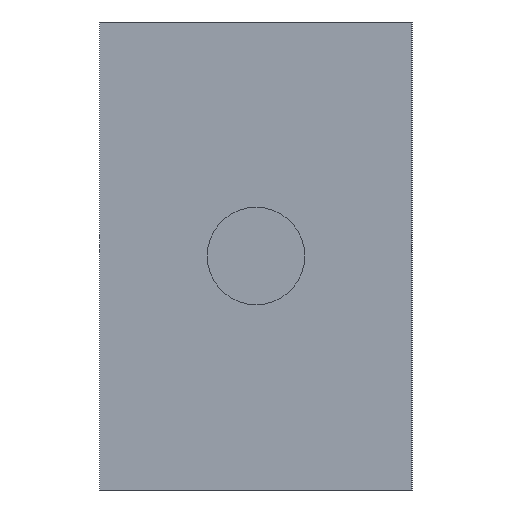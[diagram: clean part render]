
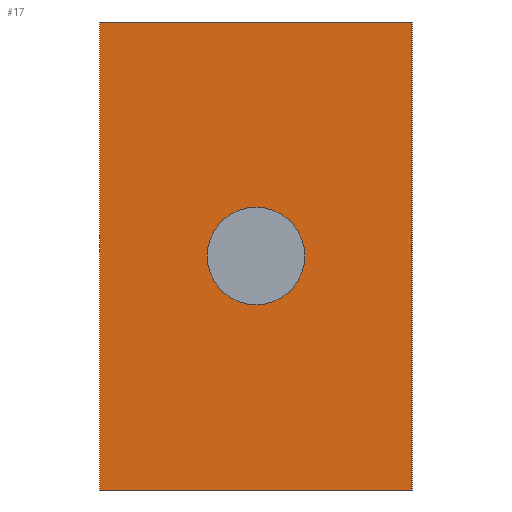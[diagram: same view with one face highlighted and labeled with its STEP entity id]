
A CAD part, left-side view. The second image highlights one B-rep face of the part: STEP entity #17.
In plain terms, the highlighted planar face has unit normal (-1, 0, 0).
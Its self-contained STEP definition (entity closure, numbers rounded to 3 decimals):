
#17 = ADVANCED_FACE('',(#18,#137),#32,.F.);
#18 = FACE_BOUND('',#19,.F.);
#19 = EDGE_LOOP('',(#20,#55,#83,#111));
#20 = ORIENTED_EDGE('',*,*,#21,.F.);
#21 = EDGE_CURVE('',#22,#24,#26,.T.);
#22 = VERTEX_POINT('',#23);
#23 = CARTESIAN_POINT('',(-80.,-4.,34.));
#24 = VERTEX_POINT('',#25);
#25 = CARTESIAN_POINT('',(-80.,-4.,46.));
#26 = SURFACE_CURVE('',#27,(#31,#43),.PCURVE_S1.);
#27 = LINE('',#28,#29);
#28 = CARTESIAN_POINT('',(-80.,-4.,34.));
#29 = VECTOR('',#30,1.);
#30 = DIRECTION('',(0.,0.,1.));
#31 = PCURVE('',#32,#37);
#32 = PLANE('',#33);
#33 = AXIS2_PLACEMENT_3D('',#34,#35,#36);
#34 = CARTESIAN_POINT('',(-80.,-4.,34.));
#35 = DIRECTION('',(1.,0.,0.));
#36 = DIRECTION('',(0.,0.,1.));
#37 = DEFINITIONAL_REPRESENTATION('',(#38),#42);
#38 = LINE('',#39,#40);
#39 = CARTESIAN_POINT('',(0.,0.));
#40 = VECTOR('',#41,1.);
#41 = DIRECTION('',(1.,0.));
#42 = ( GEOMETRIC_REPRESENTATION_CONTEXT(2) 
PARAMETRIC_REPRESENTATION_CONTEXT() REPRESENTATION_CONTEXT('2D SPACE',''
  ) );
#43 = PCURVE('',#44,#49);
#44 = PLANE('',#45);
#45 = AXIS2_PLACEMENT_3D('',#46,#47,#48);
#46 = CARTESIAN_POINT('',(-80.,-4.,34.));
#47 = DIRECTION('',(0.,1.,0.));
#48 = DIRECTION('',(0.,0.,1.));
#49 = DEFINITIONAL_REPRESENTATION('',(#50),#54);
#50 = LINE('',#51,#52);
#51 = CARTESIAN_POINT('',(0.,0.));
#52 = VECTOR('',#53,1.);
#53 = DIRECTION('',(1.,0.));
#54 = ( GEOMETRIC_REPRESENTATION_CONTEXT(2) 
PARAMETRIC_REPRESENTATION_CONTEXT() REPRESENTATION_CONTEXT('2D SPACE',''
  ) );
#55 = ORIENTED_EDGE('',*,*,#56,.T.);
#56 = EDGE_CURVE('',#22,#57,#59,.T.);
#57 = VERTEX_POINT('',#58);
#58 = CARTESIAN_POINT('',(-80.,4.,34.));
#59 = SURFACE_CURVE('',#60,(#64,#71),.PCURVE_S1.);
#60 = LINE('',#61,#62);
#61 = CARTESIAN_POINT('',(-80.,-4.,34.));
#62 = VECTOR('',#63,1.);
#63 = DIRECTION('',(0.,1.,0.));
#64 = PCURVE('',#32,#65);
#65 = DEFINITIONAL_REPRESENTATION('',(#66),#70);
#66 = LINE('',#67,#68);
#67 = CARTESIAN_POINT('',(0.,0.));
#68 = VECTOR('',#69,1.);
#69 = DIRECTION('',(0.,-1.));
#70 = ( GEOMETRIC_REPRESENTATION_CONTEXT(2) 
PARAMETRIC_REPRESENTATION_CONTEXT() REPRESENTATION_CONTEXT('2D SPACE',''
  ) );
#71 = PCURVE('',#72,#77);
#72 = PLANE('',#73);
#73 = AXIS2_PLACEMENT_3D('',#74,#75,#76);
#74 = CARTESIAN_POINT('',(-80.,-4.,34.));
#75 = DIRECTION('',(0.,0.,1.));
#76 = DIRECTION('',(1.,0.,0.));
#77 = DEFINITIONAL_REPRESENTATION('',(#78),#82);
#78 = LINE('',#79,#80);
#79 = CARTESIAN_POINT('',(0.,0.));
#80 = VECTOR('',#81,1.);
#81 = DIRECTION('',(0.,1.));
#82 = ( GEOMETRIC_REPRESENTATION_CONTEXT(2) 
PARAMETRIC_REPRESENTATION_CONTEXT() REPRESENTATION_CONTEXT('2D SPACE',''
  ) );
#83 = ORIENTED_EDGE('',*,*,#84,.T.);
#84 = EDGE_CURVE('',#57,#85,#87,.T.);
#85 = VERTEX_POINT('',#86);
#86 = CARTESIAN_POINT('',(-80.,4.,46.));
#87 = SURFACE_CURVE('',#88,(#92,#99),.PCURVE_S1.);
#88 = LINE('',#89,#90);
#89 = CARTESIAN_POINT('',(-80.,4.,34.));
#90 = VECTOR('',#91,1.);
#91 = DIRECTION('',(0.,0.,1.));
#92 = PCURVE('',#32,#93);
#93 = DEFINITIONAL_REPRESENTATION('',(#94),#98);
#94 = LINE('',#95,#96);
#95 = CARTESIAN_POINT('',(0.,-8.));
#96 = VECTOR('',#97,1.);
#97 = DIRECTION('',(1.,0.));
#98 = ( GEOMETRIC_REPRESENTATION_CONTEXT(2) 
PARAMETRIC_REPRESENTATION_CONTEXT() REPRESENTATION_CONTEXT('2D SPACE',''
  ) );
#99 = PCURVE('',#100,#105);
#100 = PLANE('',#101);
#101 = AXIS2_PLACEMENT_3D('',#102,#103,#104);
#102 = CARTESIAN_POINT('',(-80.,4.,34.));
#103 = DIRECTION('',(0.,1.,0.));
#104 = DIRECTION('',(0.,0.,1.));
#105 = DEFINITIONAL_REPRESENTATION('',(#106),#110);
#106 = LINE('',#107,#108);
#107 = CARTESIAN_POINT('',(0.,0.));
#108 = VECTOR('',#109,1.);
#109 = DIRECTION('',(1.,0.));
#110 = ( GEOMETRIC_REPRESENTATION_CONTEXT(2) 
PARAMETRIC_REPRESENTATION_CONTEXT() REPRESENTATION_CONTEXT('2D SPACE',''
  ) );
#111 = ORIENTED_EDGE('',*,*,#112,.F.);
#112 = EDGE_CURVE('',#24,#85,#113,.T.);
#113 = SURFACE_CURVE('',#114,(#118,#125),.PCURVE_S1.);
#114 = LINE('',#115,#116);
#115 = CARTESIAN_POINT('',(-80.,-4.,46.));
#116 = VECTOR('',#117,1.);
#117 = DIRECTION('',(0.,1.,0.));
#118 = PCURVE('',#32,#119);
#119 = DEFINITIONAL_REPRESENTATION('',(#120),#124);
#120 = LINE('',#121,#122);
#121 = CARTESIAN_POINT('',(12.,0.));
#122 = VECTOR('',#123,1.);
#123 = DIRECTION('',(0.,-1.));
#124 = ( GEOMETRIC_REPRESENTATION_CONTEXT(2) 
PARAMETRIC_REPRESENTATION_CONTEXT() REPRESENTATION_CONTEXT('2D SPACE',''
  ) );
#125 = PCURVE('',#126,#131);
#126 = PLANE('',#127);
#127 = AXIS2_PLACEMENT_3D('',#128,#129,#130);
#128 = CARTESIAN_POINT('',(-80.,-4.,46.));
#129 = DIRECTION('',(0.,0.,1.));
#130 = DIRECTION('',(1.,0.,0.));
#131 = DEFINITIONAL_REPRESENTATION('',(#132),#136);
#132 = LINE('',#133,#134);
#133 = CARTESIAN_POINT('',(0.,0.));
#134 = VECTOR('',#135,1.);
#135 = DIRECTION('',(0.,1.));
#136 = ( GEOMETRIC_REPRESENTATION_CONTEXT(2) 
PARAMETRIC_REPRESENTATION_CONTEXT() REPRESENTATION_CONTEXT('2D SPACE',''
  ) );
#137 = FACE_BOUND('',#138,.F.);
#138 = EDGE_LOOP('',(#139));
#139 = ORIENTED_EDGE('',*,*,#140,.F.);
#140 = EDGE_CURVE('',#141,#141,#143,.T.);
#141 = VERTEX_POINT('',#142);
#142 = CARTESIAN_POINT('',(-80.,0.,41.25));
#143 = SURFACE_CURVE('',#144,(#149,#156),.PCURVE_S1.);
#144 = CIRCLE('',#145,1.25);
#145 = AXIS2_PLACEMENT_3D('',#146,#147,#148);
#146 = CARTESIAN_POINT('',(-80.,0.,40.));
#147 = DIRECTION('',(1.,0.,0.));
#148 = DIRECTION('',(-0.,0.,1.));
#149 = PCURVE('',#32,#150);
#150 = DEFINITIONAL_REPRESENTATION('',(#151),#155);
#151 = CIRCLE('',#152,1.25);
#152 = AXIS2_PLACEMENT_2D('',#153,#154);
#153 = CARTESIAN_POINT('',(6.,-4.));
#154 = DIRECTION('',(1.,0.));
#155 = ( GEOMETRIC_REPRESENTATION_CONTEXT(2) 
PARAMETRIC_REPRESENTATION_CONTEXT() REPRESENTATION_CONTEXT('2D SPACE',''
  ) );
#156 = PCURVE('',#157,#162);
#157 = CYLINDRICAL_SURFACE('',#158,1.25);
#158 = AXIS2_PLACEMENT_3D('',#159,#160,#161);
#159 = CARTESIAN_POINT('',(-81.,0.,40.));
#160 = DIRECTION('',(1.,0.,0.));
#161 = DIRECTION('',(-0.,0.,1.));
#162 = DEFINITIONAL_REPRESENTATION('',(#163),#167);
#163 = LINE('',#164,#165);
#164 = CARTESIAN_POINT('',(0.,1.));
#165 = VECTOR('',#166,1.);
#166 = DIRECTION('',(1.,0.));
#167 = ( GEOMETRIC_REPRESENTATION_CONTEXT(2) 
PARAMETRIC_REPRESENTATION_CONTEXT() REPRESENTATION_CONTEXT('2D SPACE',''
  ) );
